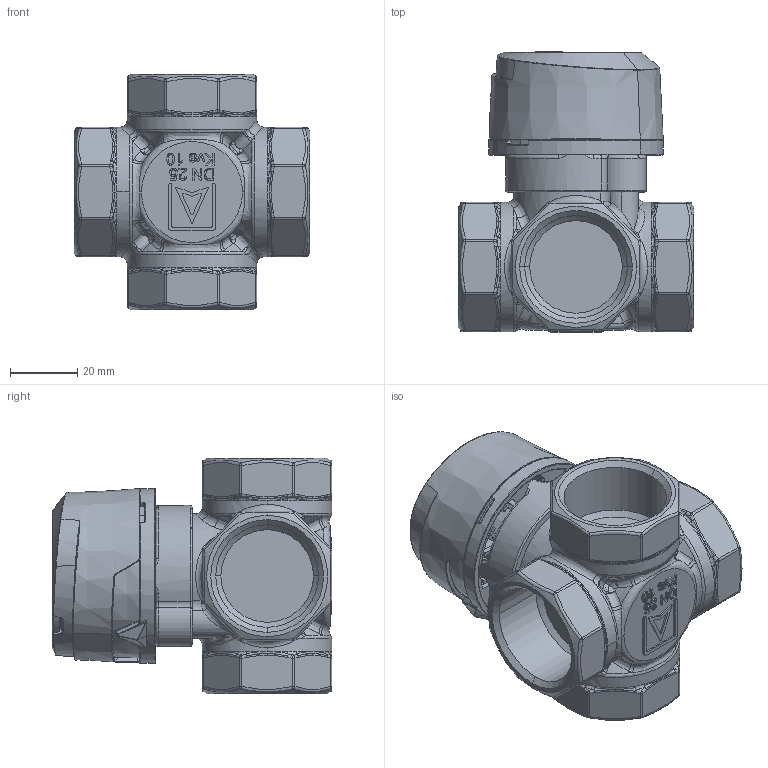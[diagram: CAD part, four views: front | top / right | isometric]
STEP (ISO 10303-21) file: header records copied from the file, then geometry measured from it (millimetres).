
FILE_DESCRIPTION (( 'STEP AP214' ), '1' );
FILE_NAME ('1348410.STEP', '2022-06-07T07:46:00', ( '' ), ( '' ), 'SwSTEP 2.0', 'SolidWorks 2021', '' );
FILE_SCHEMA (( 'AUTOMOTIVE_DESIGN' ));
Length unit declared in the file: millimetre
Products named in the file (7): 13 484 10_841_2.0_DN25_AFP_181953; nakretka; item_0063956_Œruba_z_³bem_sto¿kowym_din_7991_m4x10_szczego³y_3; Sockel Mischerbet. _AFRISO-PL__2017-05-31_1; Pokr皻這 ARV; ARV_nowa generacja (pokr皻這)_1; 1348410
Assembly tree (6 placements, depth 3):
  1348410
    13 484 10_841_2.0_DN25_AFP_181953
    item_0063956_Œruba_z_³bem_sto¿kowym_din_7991_m4x10_szczego³y_3
    nakretka
    Pokr皻這 ARV
      ARV_nowa generacja (pokr皻這)_1
      Sockel Mischerbet. _AFRISO-PL__2017-05-31_1
Bounding box: 70 x 83.16 x 70 mm (x, y, z)
Volume: 113091.8 mm3; surface area: 51446.3 mm2
Topology: 5 solids, 5 shells, 2339 faces, 5954 edges, 3628 vertices
Faces by surface type: bspline 1109, plane 725, cylinder 297, cone 204, torus 4
Entity records: 134107 total; most frequent: CARTESIAN_POINT 72459, ORIENTED_EDGE 11766, DIRECTION 7057, EDGE_CURVE 5883, VERTEX_POINT 3629, AXIS2_PLACEMENT_3D 2471, EDGE_LOOP 2430, FACE_OUTER_BOUND 2339
